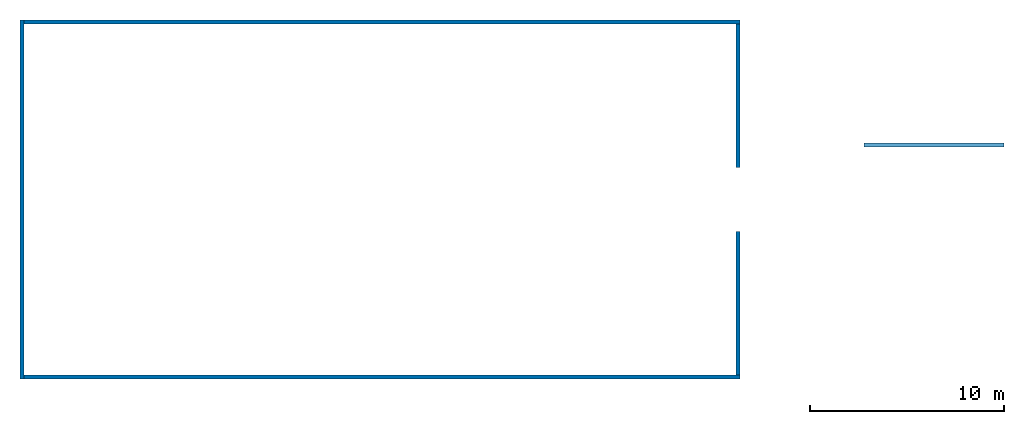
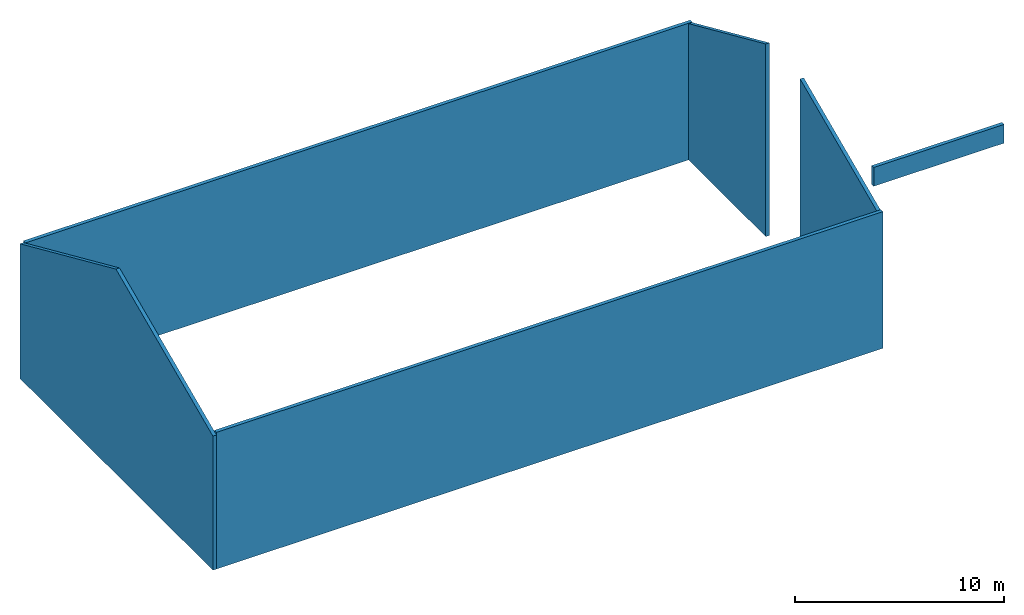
# One storey: 6 walls.
"""IFC2X3 building model written with IfcOpenShell, lengths in millimetres."""

from ifc_helpers import new_model, entity, si_unit, converted_unit, derived_unit, direction, frame, frame_2d, origin, place, context, subcontext, project, spatial, polyline, rectangle, extrude, clip, bounded_halfspace, material, layer, layer_set, layer_usage, type_object, element, save


model = new_model("IFC2X3")

# Units and contexts
model_context = context("Model", 3, precision=0.01, world=origin(), true_north=direction((6.123031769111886e-17, 1.0)))
body_context = subcontext(model_context, "Body", "Model", "MODEL_VIEW")
ifc_project = project(units=[si_unit("LENGTHUNIT", "METRE", prefix="MILLI"), si_unit("AREAUNIT", "SQUARE_METRE"), si_unit("VOLUMEUNIT", "CUBIC_METRE"), converted_unit("PLANEANGLEUNIT", "DEGREE", entity("IfcRatioMeasure", 0.017453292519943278), si_unit("PLANEANGLEUNIT", "RADIAN"), dimensions=[0, 0, 0, 0, 0, 0, 0]), si_unit("MASSUNIT", "GRAM", prefix="KILO"), derived_unit("MASSDENSITYUNIT", [(si_unit("MASSUNIT", "GRAM", prefix="KILO"), 1), (si_unit("LENGTHUNIT", "METRE"), -3)]), derived_unit("MOMENTOFINERTIAUNIT", [(si_unit("LENGTHUNIT", "METRE"), 4)]), si_unit("TIMEUNIT", "SECOND"), si_unit("FREQUENCYUNIT", "HERTZ"), si_unit("THERMODYNAMICTEMPERATUREUNIT", "DEGREE_CELSIUS"), derived_unit("THERMALTRANSMITTANCEUNIT", [(si_unit("MASSUNIT", "GRAM", prefix="KILO"), 1), (si_unit("THERMODYNAMICTEMPERATUREUNIT", "KELVIN"), -1), (si_unit("TIMEUNIT", "SECOND"), -3)]), derived_unit("VOLUMETRICFLOWRATEUNIT", [(si_unit("LENGTHUNIT", "METRE"), 3), (si_unit("TIMEUNIT", "SECOND"), -1)]), derived_unit("MASSFLOWRATEUNIT", [(si_unit("MASSUNIT", "GRAM", prefix="KILO"), 1), (si_unit("TIMEUNIT", "SECOND"), -1)]), derived_unit("ROTATIONALFREQUENCYUNIT", [(si_unit("TIMEUNIT", "SECOND"), -1)]), si_unit("ELECTRICCURRENTUNIT", "AMPERE"), si_unit("ELECTRICVOLTAGEUNIT", "VOLT"), si_unit("POWERUNIT", "WATT"), si_unit("FORCEUNIT", "NEWTON", prefix="KILO"), si_unit("ILLUMINANCEUNIT", "LUX"), si_unit("LUMINOUSFLUXUNIT", "LUMEN"), si_unit("LUMINOUSINTENSITYUNIT", "CANDELA"), derived_unit("USERDEFINED", [(si_unit("MASSUNIT", "GRAM", prefix="KILO"), -1), (si_unit("LENGTHUNIT", "METRE"), -2), (si_unit("TIMEUNIT", "SECOND"), 3), (si_unit("LUMINOUSFLUXUNIT", "LUMEN"), 1)]), derived_unit("SOUNDPOWERUNIT", [(si_unit("MASSUNIT", "GRAM", prefix="KILO"), 1), (si_unit("LENGTHUNIT", "METRE"), 2), (si_unit("TIMEUNIT", "SECOND"), -3)]), derived_unit("SOUNDPRESSUREUNIT", [(si_unit("MASSUNIT", "GRAM", prefix="KILO"), 1), (si_unit("LENGTHUNIT", "METRE"), -1), (si_unit("TIMEUNIT", "SECOND"), -2)]), derived_unit("LINEARVELOCITYUNIT", [(si_unit("LENGTHUNIT", "METRE"), 1), (si_unit("TIMEUNIT", "SECOND"), -1)]), si_unit("PRESSUREUNIT", "PASCAL"), derived_unit("USERDEFINED", [(si_unit("LENGTHUNIT", "METRE"), -2), (si_unit("MASSUNIT", "GRAM", prefix="KILO"), 1), (si_unit("TIMEUNIT", "SECOND"), -2)]), derived_unit("LINEARFORCEUNIT", [(si_unit("MASSUNIT", "GRAM", prefix="KILO"), 1), (si_unit("LENGTHUNIT", "METRE"), 1), (si_unit("TIMEUNIT", "SECOND"), -2), (si_unit("LENGTHUNIT", "METRE"), -1)]), derived_unit("PLANARFORCEUNIT", [(si_unit("MASSUNIT", "GRAM", prefix="KILO"), 1), (si_unit("LENGTHUNIT", "METRE"), 1), (si_unit("TIMEUNIT", "SECOND"), -2), (si_unit("LENGTHUNIT", "METRE"), -2)])], contexts=[model_context])

# Site, building, storey
site_placement = place(None, origin())
site = spatial("IfcSite", under=ifc_project, at=site_placement, Name="Default", CompositionType="ELEMENT")
building_placement = place(site_placement, origin())
building = spatial("IfcBuilding", under=site, at=building_placement, CompositionType="ELEMENT")
storey_placement = place(building_placement, origin())
storey = spatial("IfcBuildingStorey", under=building, at=storey_placement, Name="GL", CompositionType="ELEMENT", Elevation=0.0)

# Walls
ifc_material = material(Name="既定の壁")
ifc_layer = layer(ifc_material, 200.0)
ifc_layer_set = layer_set([ifc_layer], Name="標準壁:標準-200mm")
ifc_layer_usage_1 = layer_usage(ifc_layer_set, "AXIS2", "NEGATIVE", 100.0)
wall_type = type_object("IfcWallType", Name="標準壁:標準-200mm", PredefinedType="STANDARD", material=ifc_layer_set)
wall_1_placement = place(storey_placement, frame((93000.0, 18400.0, 0.0), z_axis=(0.0, 0.0, 1.0), x_axis=(0.0, -1.0, 0.0)))
element("IfcWallStandardCase", 1, at=wall_1_placement, inside=storey, type_object=wall_type, material=ifc_layer_usage_1, Name="標準壁:標準-200mm", ObjectType="標準壁:標準-200mm", context=body_context, shape_type="Clipping", body=[
    clip(clip(extrude(rectangle(XDim=18500.00000000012, YDim=199.9999999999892, at=frame_2d((9250.00000000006, 1.9184653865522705e-13), x_axis=(-1.0, 0.0))), origin(), (0.0, 0.0, 1.0), 11985.804558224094), bounded_halfspace(frame((0.0, -100.0, 7889.700653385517), z_axis=(0.4067366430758, 0.0, -0.913545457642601), x_axis=(0.0, 1.0, 0.0)), True, frame((0.0, -100.0, 7889.700653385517)), polyline([(0.0, 0.0), (2804160.0, 0.0), (2804160.0, 60960.0), (0.0, 60960.0), (0.0, 0.0)]))), bounded_halfspace(frame((9200.0, -100.0, 11985.804558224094), z_axis=(-0.4067366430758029, 0.0, -0.9135454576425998), x_axis=(0.0, 1.0, 0.0)), True, frame((9200.0, -100.0, 11985.804558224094)), polyline([(0.0, 0.0), (2834640.0, 0.0), (2834640.0, 60960.0), (-1.6632839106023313e-09, 60960.0), (0.0, 0.0)]))),
])
ifc_layer_usage_2 = layer_usage(ifc_layer_set, "AXIS2", "NEGATIVE", 100.0)
wall_2_placement = place(storey_placement, frame((93100.0, 0.0, 0.0)))
element("IfcWallStandardCase", 2, at=wall_2_placement, inside=storey, type_object=wall_type, material=ifc_layer_usage_2, Name="標準壁:標準-200mm", ObjectType="標準壁:標準-200mm", context=body_context, shape_type="SweptSolid", body=[
    extrude(rectangle(XDim=36900.00000000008, YDim=200.0, at=frame_2d((18450.00000000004, 0.0), x_axis=(-1.0, 0.0))), origin(), (0.0, 0.0, 1.0), 8000.000000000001),
])
ifc_layer_usage_3 = layer_usage(ifc_layer_set, "AXIS2", "NEGATIVE", 100.0)
wall_3_placement = place(storey_placement, frame((129900.0, 100.0, 0.0), z_axis=(0.0, 0.0, 1.0), x_axis=(0.0, 1.0, 0.0)))
element("IfcWallStandardCase", 3, at=wall_3_placement, inside=storey, type_object=wall_type, material=ifc_layer_usage_3, Name="標準壁:標準-200mm", ObjectType="標準壁:標準-200mm", context=body_context, shape_type="Clipping", body=[
    clip(extrude(rectangle(XDim=7400.000000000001, YDim=199.9999999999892, at=frame_2d((3700.0000000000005, -1.6555645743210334e-12), x_axis=(-1.0, 0.0))), origin(), (0.0, 0.0, 1.0), 11228.91579319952), bounded_halfspace(frame((0.0, -100.0, 7934.223521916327), z_axis=(0.4067366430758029, 0.0, -0.9135454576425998), x_axis=(0.0, -1.0, 0.0)), True, frame((0.0, -100.0, 7934.223521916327)), polyline([(0.0, 0.0), (2255520.0, -1.009232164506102e-09), (2255520.0, 60960.0), (0.0, 60960.0), (0.0, 0.0)]))),
])
ifc_layer_usage_4 = layer_usage(ifc_layer_set, "AXIS2", "NEGATIVE", 100.0)
wall_4_placement = place(storey_placement, frame((130000.0, 18300.0, 0.0), z_axis=(0.0, 0.0, 1.0), x_axis=(-1.0, 0.0, 0.0)))
element("IfcWallStandardCase", 4, at=wall_4_placement, inside=storey, type_object=wall_type, material=ifc_layer_usage_4, Name="標準壁:標準-200mm", ObjectType="標準壁:標準-200mm", context=body_context, shape_type="SweptSolid", body=[
    extrude(rectangle(XDim=36900.000000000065, YDim=199.99999999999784, at=frame_2d((18450.000000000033, 0.0), x_axis=(-1.0, 0.0))), origin(), (0.0, 0.0, 1.0), 8000.000000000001),
])
ifc_layer_usage_5 = layer_usage(ifc_layer_set, "AXIS2", "NEGATIVE", 100.0)
wall_5_placement = place(storey_placement, frame((136391.0, 11950.0, 0.0)))
element("IfcWallStandardCase", 5, at=wall_5_placement, inside=storey, type_object=wall_type, material=ifc_layer_usage_5, Name="標準壁:標準-200mm", ObjectType="標準壁:標準-200mm", context=body_context, shape_type="SweptSolid", body=[
    extrude(rectangle(XDim=7209.000000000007, YDim=200.0000000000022, at=frame_2d((3604.5000000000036, 0.0), x_axis=(-1.0, 0.0))), origin(), (0.0, 0.0, 1.0), 1100.0),
])
ifc_layer_usage_6 = layer_usage(ifc_layer_set, "AXIS2", "NEGATIVE", 100.0)
wall_6_placement = place(storey_placement, frame((129900.0, 18200.0, 0.0), z_axis=(0.0, 0.0, 1.0), x_axis=(0.0, -1.0, 0.0)))
element("IfcWallStandardCase", 6, at=wall_6_placement, inside=storey, type_object=wall_type, material=ifc_layer_usage_6, Name="標準壁:標準-200mm", ObjectType="標準壁:標準-200mm", context=body_context, shape_type="Clipping", body=[
    clip(extrude(rectangle(XDim=7400.000000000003, YDim=199.9999999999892, at=frame_2d((3700.0000000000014, -5.968558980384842e-13), x_axis=(-1.0, 0.0))), origin(), (0.0, 0.0, 1.0), 11273.438661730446), bounded_halfspace(frame((0.0, -100.0, 7978.746390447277), z_axis=(0.4067366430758, 0.0, -0.913545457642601), x_axis=(0.0, 1.0, 0.0)), True, frame((0.0, -100.0, 7978.746390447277)), polyline([(0.0, 0.0), (2255520.0, 0.0), (2255520.0, 60960.0), (0.0, 60960.0), (0.0, 0.0)]))),
])

save(model, "model.ifc")
